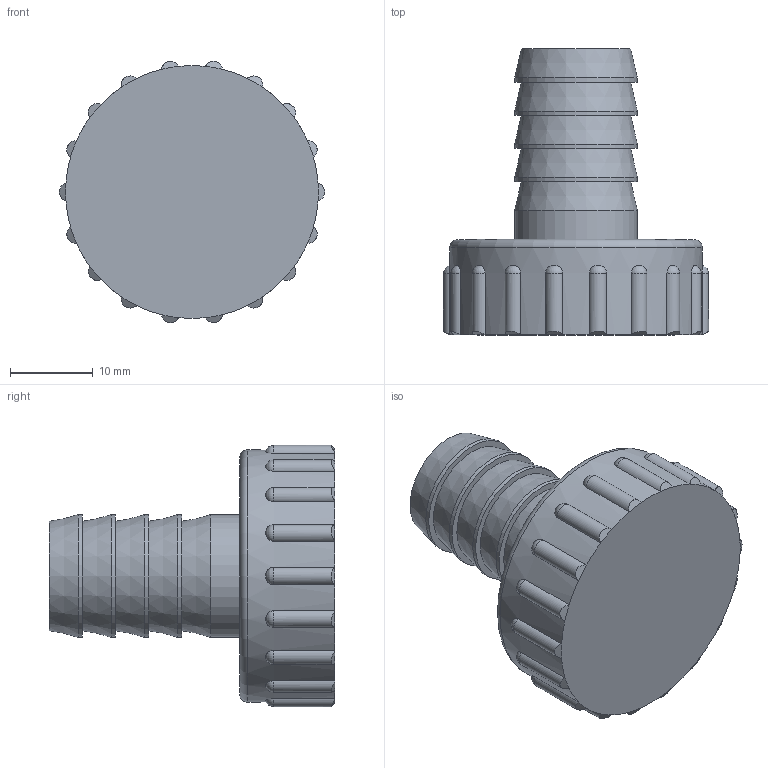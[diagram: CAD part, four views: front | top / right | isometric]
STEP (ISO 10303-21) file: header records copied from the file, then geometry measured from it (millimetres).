
FILE_DESCRIPTION(('STEP AP203'), '1');
FILE_NAME('覆.302612.022.000 捘 - VTr.654.NE.0510', '2024-07-12T06:35:03', ('Boss'), (''), 'C3D Converter', 'C3D Toolkit', '');
FILE_SCHEMA(('CONFIG_CONTROL_DESIGN'));
Length unit declared in the file: millimetre
Products named in the file (1): ВР.302612.022.000 СБ
Bounding box: 32 x 34.5 x 31.55 mm (x, y, z)
Volume: 10091 mm3; surface area: 4817.9 mm2
Topology: 1 solids, 1 shells, 79 faces, 167 edges, 96 vertices
Faces by surface type: cone 26, cylinder 25, torus 20, plane 8
Full cylindrical faces by diameter (mm): 14.8 x5, 16 x1, 30.5 x1
Entity records: 3008 total; most frequent: CARTESIAN_POINT 1372, DIRECTION 350, ORIENTED_EDGE 300, AXIS2_PLACEMENT_3D 157, EDGE_CURVE 150, EDGE_LOOP 102, VERTEX_POINT 96, ADVANCED_FACE 79
